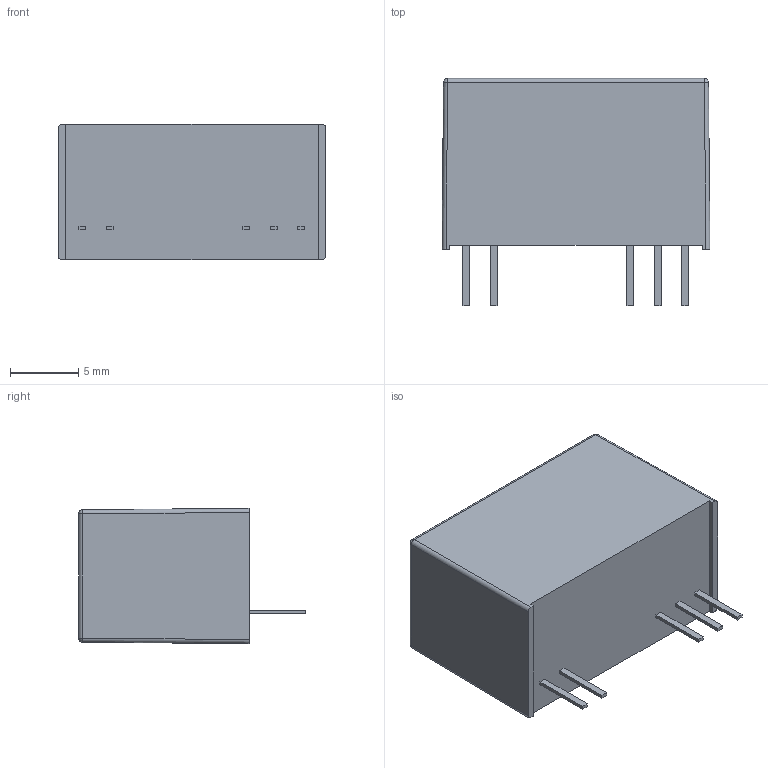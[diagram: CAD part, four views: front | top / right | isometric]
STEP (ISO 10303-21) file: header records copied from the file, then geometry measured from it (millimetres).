
FILE_DESCRIPTION (( 'STEP AP214' ), '1' );
FILE_NAME ('MPU01-V00.STEP', '2021-10-13T09:11:13', ( '' ), ( '' ), 'SwSTEP 2.0', 'SolidWorks 2016', '' );
FILE_SCHEMA (( 'AUTOMOTIVE_DESIGN' ));
Length unit declared in the file: millimetre
Products named in the file (1): MPU01-V00
Bounding box: 19.6 x 16.6 x 9.9 mm (x, y, z)
Volume: 2331.2 mm3; surface area: 1127.6 mm2
Topology: 1 solids, 1 shells, 47 faces, 112 edges, 68 vertices
Faces by surface type: plane 35, cylinder 8, sphere 4
Entity records: 1849 total; most frequent: CARTESIAN_POINT 236, ORIENTED_EDGE 216, DIRECTION 212, EDGE_CURVE 108, VECTOR 92, LINE 92, VERTEX_POINT 68, AXIS2_PLACEMENT_3D 60
